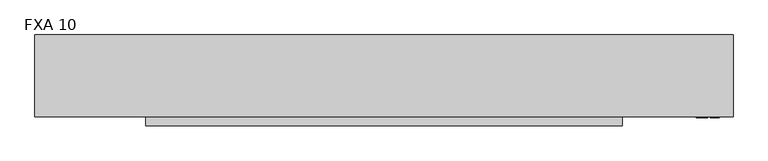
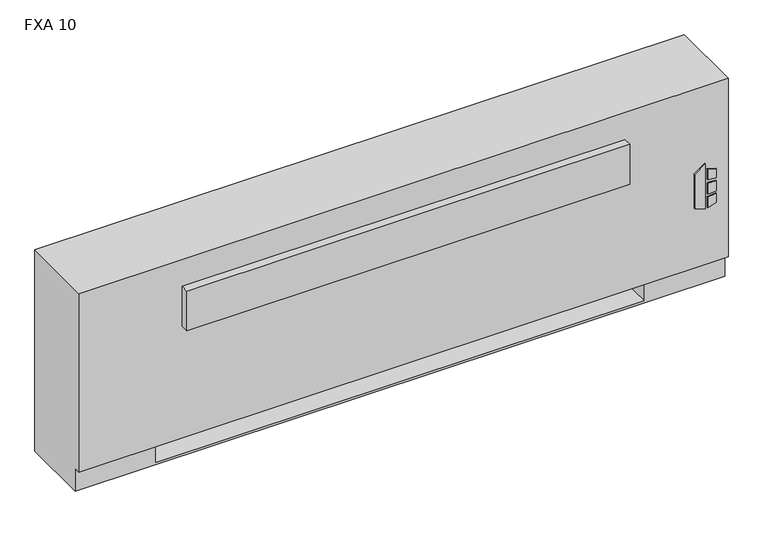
"""IFC4 building model written with IfcOpenShell, lengths in millimetres: proxy geometry, Vertical_Fan_Coil_Unit_-_FXA_-_IEC_-_2-Pipe_FS-FR_RH_2022 : FXA 10."""

from ifc_helpers import new_model, si_unit, point, frame, frame_2d, origin, place, context, project, spatial, polyline, circle_curve, trimmed, segment, composite_curve, outline, extrude, source, transform, mapped, element, save
from ifc_brep_helpers import plane_surface, revolved_surface, advanced_brep


def fxa_10_9ed3e903(model_context):
    return source(origin(), model_context, "Body", "SolidModel", [
        extrude(outline(polyline([(263.9480703, 1027.1868862), (254.0, 1059.3602728), (396.1709244, 1059.3602728), (373.1489183, 1027.1868862), (263.9480703, 1027.1868862)])), frame((0.0, 12.7, 0.0), z_axis=(0.0, 1.0, 0.0), x_axis=(0.0, 0.0, 1.0)), (0.0, 0.0, 1.0), 3.175),
        extrude(outline(polyline([(342.9473557, 1066.1186058), (339.7449632, 1092.2), (368.9738042, 1092.2), (377.0382193, 1066.1186058), (342.9473557, 1066.1186058)])), frame((0.0, 12.7, 0.0), z_axis=(0.0, 1.0, 0.0), x_axis=(0.0, 0.0, 1.0)), (0.0, 0.0, 1.0), 3.175),
        extrude(outline(polyline([(291.0838288, 1092.2), (287.4183279, 1066.1186058), (254.0, 1066.1186058), (262.6342372, 1092.2), (291.0838288, 1092.2)])), frame((0.0, 12.7, 0.0), z_axis=(0.0, 1.0, 0.0), x_axis=(0.0, 0.0, 1.0)), (0.0, 0.0, 1.0), 3.175),
        extrude(outline(polyline([(330.3989903, 1092.2), (332.6808166, 1066.1186058), (296.7432681, 1066.1186058), (299.4845331, 1092.2), (330.3989903, 1092.2)])), frame((0.0, 12.7, 0.0), z_axis=(0.0, 1.0, 0.0), x_axis=(0.0, 0.0, 1.0)), (0.0, 0.0, 1.0), 3.175),
        extrude(outline(polyline([(-704.85, 81.534), (-704.85, 223.266), (-584.2, 223.266), (-584.2, 81.534), (-704.85, 81.534)])), frame((0.0, 0.0, 327.025), z_axis=(0.0, 0.0, 1.0), x_axis=(1.0, 0.0, 0.0)), (0.0, 0.0, 1.0), 260.35),
        extrude(outline(composite_curve([segment(trimmed(circle_curve(frame_2d((952.5, 130.175)), 9.525), [point((942.975, 130.175))], [point((962.025, 130.175))], False, "CARTESIAN"), True, "CONTINUOUS"), segment(trimmed(circle_curve(frame_2d((952.5, 130.175)), 9.525), [point((962.025, 130.175))], [point((942.975, 130.175))], False, "CARTESIAN"), True, "CONTINUOUS")], self_intersect=False)), frame((0.0, 0.0, 101.6), z_axis=(0.0, 0.0, 1.0), x_axis=(1.0, 0.0, 0.0)), (0.0, 0.0, 1.0), 25.4),
        extrude(outline(polyline([(1054.1, 196.85), (1054.1, 63.5), (889.0, 63.5), (889.0, 196.85), (1054.1, 196.85)])), frame((0.0, 0.0, 127.0), z_axis=(0.0, 0.0, 1.0), x_axis=(1.0, 0.0, 0.0)), (0.0, 0.0, 1.0), 50.8),
        extrude(outline(polyline([(819.15, -9.525), (-514.35, -9.525), (-514.35, 15.875), (819.15, 15.875), (819.15, -9.525)])), frame((0.0, 0.0, 428.625), z_axis=(0.0, 0.0, 1.0), x_axis=(1.0, 0.0, 0.0)), (0.0, 0.0, 1.0), 127.0),
        extrude(outline(composite_curve([segment(trimmed(circle_curve(frame_2d((93.1926, 485.5972)), 7.9375), [point((93.1926, 493.5347))], [point((93.1926, 477.6597))], False, "CARTESIAN"), True, "CONTINUOUS"), segment(trimmed(circle_curve(frame_2d((93.1926, 485.5972)), 7.9375), [point((93.1926, 477.6597))], [point((93.1926, 493.5347))], False, "CARTESIAN"), True, "CONTINUOUS")], self_intersect=False)), frame((889.0, 0.0, 0.0), z_axis=(1.0, 0.0, 0.0), x_axis=(0.0, 1.0, 0.0)), (0.0, 0.0, 1.0), 50.8),
        extrude(outline(composite_curve([segment(trimmed(circle_curve(frame_2d((141.3002, 458.9526)), 7.9375), [point((141.3002, 466.8901))], [point((141.3002, 451.0151))], False, "CARTESIAN"), True, "CONTINUOUS"), segment(trimmed(circle_curve(frame_2d((141.3002, 458.9526)), 7.9375), [point((141.3002, 451.0151))], [point((141.3002, 466.8901))], False, "CARTESIAN"), True, "CONTINUOUS")], self_intersect=False)), frame((889.0, 0.0, 0.0), z_axis=(1.0, 0.0, 0.0), x_axis=(0.0, 1.0, 0.0)), (0.0, 0.0, 1.0), 50.8),
        advanced_brep(
        [(1130.3, 244.475, 641.35), (-825.5, 244.475, 641.35), (-825.5, 15.875, 641.35), (1130.3, 15.875, 641.35), (-825.5, 244.475, 0.0), (1130.3, 244.475, 0.0), (1130.3, 34.925, 0.0), (-825.5, 34.925, 0.0), (889.0, 244.475, 73.025), (1117.6, 244.475, 73.025), (1117.6, 244.475, 628.65), (889.0, 244.475, 628.65), (889.0, 244.475, 414.8650565), (917.575, 244.475, 414.8650565), (917.575, 244.475, 385.2349435), (889.0, 244.475, 385.2349435), (889.0, 244.475, 287.3375), (917.575, 244.475, 287.3375), (917.575, 244.475, 258.7625), (889.0, 244.475, 258.7625), (889.0, 244.475, 141.2875), (917.575, 244.475, 141.2875), (917.575, 244.475, 112.7125), (889.0, 244.475, 112.7125), (-584.2, 244.475, 628.65), (-812.8, 244.475, 628.65), (-812.8, 244.475, 73.025), (-584.2, 244.475, 73.025), (-584.2, 244.475, 112.7125), (-612.775, 244.475, 112.7125), (-612.775, 244.475, 141.2875), (-584.2, 244.475, 141.2875), (-584.2, 244.475, 258.7625), (-612.775, 244.475, 258.7625), (-612.775, 244.475, 287.3375), (-584.2, 244.475, 287.3375), (-584.2, 244.475, 385.2349435), (-612.775, 244.475, 385.2349435), (-612.775, 244.475, 414.8650565), (-584.2, 244.475, 414.8650565), (907.2626, 244.475, 127.0), (896.1374, 244.475, 127.0), (907.2626, 244.475, 400.05), (896.1374, 244.475, 400.05), (907.2626, 244.475, 273.05), (896.1374, 244.475, 273.05), (-591.3374, 244.475, 127.0), (-602.4626, 244.475, 127.0), (-591.3374, 244.475, 273.05), (-602.4626, 244.475, 273.05), (-591.3374, 244.475, 400.05), (-602.4626, 244.475, 400.05), (-825.5, 34.925, 73.025), (-825.5, 15.875, 73.025), (1130.3, 15.875, 73.025), (1130.3, 34.925, 73.025), (-584.2, 34.925, 73.025), (-584.2, 219.075, 73.025), (889.0, 219.075, 73.025), (889.0, 34.925, 73.025), (889.0, 34.925, 6.35), (-584.2, 34.925, 6.35), (889.0, 41.275, 628.65), (1117.6, 41.275, 628.65), (1117.6, 41.275, 73.025), (889.0, 41.275, 73.025), (-584.2, 41.275, 628.65), (-584.2, 41.275, 73.025), (-812.8, 41.275, 73.025), (-812.8, 41.275, 628.65), (889.0, 219.075, 73.025), (889.0, 238.125, 112.7125), (889.0, 238.125, 141.2875), (889.0, 238.125, 258.7625), (889.0, 238.125, 287.3375), (889.0, 238.125, 385.2349435), (889.0, 238.125, 414.8650565), (-584.2, 219.075, 73.025), (-584.2, 238.125, 414.8650565), (-584.2, 238.125, 385.2349435), (-584.2, 238.125, 287.3375), (-584.2, 238.125, 258.7625), (-584.2, 238.125, 141.2875), (-584.2, 238.125, 112.7125), (-584.2, 219.075, 6.35), (889.0, 219.075, 6.35), (917.575, 238.125, 112.7125), (917.575, 238.125, 141.2875), (896.1374, 238.125, 127.0), (907.2626, 238.125, 127.0), (917.575, 238.125, 258.7625), (917.575, 238.125, 287.3375), (896.1374, 238.125, 273.05), (907.2626, 238.125, 273.05), (917.575, 238.125, 385.2349435), (917.575, 238.125, 414.8650565), (896.1374, 238.125, 400.05), (907.2626, 238.125, 400.05), (-612.775, 238.125, 141.2875), (-612.775, 238.125, 112.7125), (-602.4626, 238.125, 127.0), (-591.3374, 238.125, 127.0), (-612.775, 238.125, 287.3375), (-612.775, 238.125, 258.7625), (-602.4626, 238.125, 273.05), (-591.3374, 238.125, 273.05), (-612.775, 238.125, 414.8650565), (-612.775, 238.125, 385.2349435), (-602.4626, 238.125, 400.05), (-591.3374, 238.125, 400.05)],
        [
            (0, 1),
            (1, 2),
            (2, 3),
            (3, 0),
            (4, 5),
            (5, 6),
            (6, 7),
            (7, 4),
            (0, 5),
            (4, 1),
            (8, 9),
            (9, 10),
            (10, 11),
            (11, 12),
            (12, 13),
            (13, 14),
            (14, 15),
            (15, 16),
            (16, 17),
            (17, 18),
            (18, 19),
            (19, 20),
            (20, 21),
            (21, 22),
            (22, 23),
            (23, 8),
            (24, 25),
            (25, 26),
            (26, 27),
            (27, 28),
            (28, 29),
            (29, 30),
            (30, 31),
            (31, 32),
            (32, 33),
            (33, 34),
            (34, 35),
            (35, 36),
            (36, 37),
            (37, 38),
            (38, 39),
            (39, 24),
            (40, 41, circle_curve(frame((901.7, 244.475, 127.0), z_axis=(0.0, -1.0, 0.0), x_axis=(-1.0, 0.0, 0.0)), 5.5626)),
            (41, 40, circle_curve(frame((901.7, 244.475, 127.0), z_axis=(0.0, -1.0, 0.0), x_axis=(-1.0, 0.0, 0.0)), 5.5626)),
            (42, 43, circle_curve(frame((901.7, 244.475, 400.05), z_axis=(0.0, -1.0, 0.0), x_axis=(-1.0, 0.0, 0.0)), 5.5626)),
            (43, 42, circle_curve(frame((901.7, 244.475, 400.05), z_axis=(0.0, -1.0, 0.0), x_axis=(-1.0, 0.0, 0.0)), 5.5626)),
            (44, 45, circle_curve(frame((901.7, 244.475, 273.05), z_axis=(0.0, -1.0, 0.0), x_axis=(-1.0, 0.0, 0.0)), 5.5626)),
            (45, 44, circle_curve(frame((901.7, 244.475, 273.05), z_axis=(0.0, -1.0, 0.0), x_axis=(-1.0, 0.0, 0.0)), 5.5626)),
            (46, 47, circle_curve(frame((-596.9, 244.475, 127.0), z_axis=(0.0, -1.0, 0.0), x_axis=(-1.0, 0.0, 0.0)), 5.5626)),
            (47, 46, circle_curve(frame((-596.9, 244.475, 127.0), z_axis=(0.0, -1.0, 0.0), x_axis=(-1.0, 0.0, 0.0)), 5.5626)),
            (48, 49, circle_curve(frame((-596.9, 244.475, 273.05), z_axis=(0.0, -1.0, 0.0), x_axis=(-1.0, 0.0, 0.0)), 5.5626)),
            (49, 48, circle_curve(frame((-596.9, 244.475, 273.05), z_axis=(0.0, -1.0, 0.0), x_axis=(-1.0, 0.0, 0.0)), 5.5626)),
            (50, 51, circle_curve(frame((-596.9, 244.475, 400.05), z_axis=(0.0, -1.0, 0.0), x_axis=(-1.0, 0.0, 0.0)), 5.5626)),
            (51, 50, circle_curve(frame((-596.9, 244.475, 400.05), z_axis=(0.0, -1.0, 0.0), x_axis=(-1.0, 0.0, 0.0)), 5.5626)),
            (7, 52),
            (52, 53),
            (53, 2),
            (53, 54),
            (54, 3),
            (54, 55),
            (55, 6),
            (52, 56),
            (56, 57),
            (57, 58),
            (58, 59),
            (59, 55),
            (59, 60),
            (60, 61),
            (61, 56),
            (62, 63),
            (63, 64),
            (64, 65),
            (65, 62),
            (66, 67),
            (67, 68),
            (68, 69),
            (69, 66),
            (65, 70),
            (70, 8),
            (23, 71),
            (71, 72),
            (72, 20),
            (19, 73),
            (73, 74),
            (74, 16),
            (15, 75),
            (75, 76),
            (76, 12),
            (11, 62),
            (64, 9),
            (63, 10),
            (69, 25),
            (24, 66),
            (68, 26),
            (67, 77),
            (77, 27),
            (39, 78),
            (78, 79),
            (79, 36),
            (35, 80),
            (80, 81),
            (81, 32),
            (31, 82),
            (82, 83),
            (83, 28),
            (57, 84),
            (84, 85),
            (85, 58),
            (85, 60),
            (84, 61),
            (71, 86),
            (86, 87),
            (87, 72),
            (88, 89, circle_curve(frame((901.7, 238.125, 127.0), z_axis=(0.0, 1.0, 0.0), x_axis=(-1.0, 0.0, 0.0)), 5.5626)),
            (89, 88, circle_curve(frame((901.7, 238.125, 127.0), z_axis=(0.0, 1.0, 0.0), x_axis=(-1.0, 0.0, 0.0)), 5.5626)),
            (73, 90),
            (90, 91),
            (91, 74),
            (92, 93, circle_curve(frame((901.7, 238.125, 273.05), z_axis=(0.0, 1.0, 0.0), x_axis=(-1.0, 0.0, 0.0)), 5.5626)),
            (93, 92, circle_curve(frame((901.7, 238.125, 273.05), z_axis=(0.0, 1.0, 0.0), x_axis=(-1.0, 0.0, 0.0)), 5.5626)),
            (75, 94),
            (94, 95),
            (95, 76),
            (96, 97, circle_curve(frame((901.7, 238.125, 400.05), z_axis=(0.0, 1.0, 0.0), x_axis=(-1.0, 0.0, 0.0)), 5.5626)),
            (97, 96, circle_curve(frame((901.7, 238.125, 400.05), z_axis=(0.0, 1.0, 0.0), x_axis=(-1.0, 0.0, 0.0)), 5.5626)),
            (98, 99),
            (99, 83),
            (82, 98),
            (100, 101, circle_curve(frame((-596.9, 238.125, 127.0), z_axis=(0.0, 1.0, 0.0), x_axis=(-1.0, 0.0, 0.0)), 5.5626)),
            (101, 100, circle_curve(frame((-596.9, 238.125, 127.0), z_axis=(0.0, 1.0, 0.0), x_axis=(-1.0, 0.0, 0.0)), 5.5626)),
            (102, 103),
            (103, 81),
            (80, 102),
            (104, 105, circle_curve(frame((-596.9, 238.125, 273.05), z_axis=(0.0, 1.0, 0.0), x_axis=(-1.0, 0.0, 0.0)), 5.5626)),
            (105, 104, circle_curve(frame((-596.9, 238.125, 273.05), z_axis=(0.0, 1.0, 0.0), x_axis=(-1.0, 0.0, 0.0)), 5.5626)),
            (106, 107),
            (107, 79),
            (78, 106),
            (108, 109, circle_curve(frame((-596.9, 238.125, 400.05), z_axis=(0.0, 1.0, 0.0), x_axis=(-1.0, 0.0, 0.0)), 5.5626)),
            (109, 108, circle_curve(frame((-596.9, 238.125, 400.05), z_axis=(0.0, 1.0, 0.0), x_axis=(-1.0, 0.0, 0.0)), 5.5626)),
            (87, 21),
            (86, 22),
            (91, 17),
            (90, 18),
            (95, 13),
            (94, 14),
            (30, 98),
            (99, 29),
            (34, 102),
            (103, 33),
            (38, 106),
            (107, 37),
            (88, 41),
            (40, 89),
            (96, 43),
            (42, 97),
            (92, 45),
            (44, 93),
            (100, 47),
            (46, 101),
            (104, 49),
            (48, 105),
            (108, 51),
            (50, 109),
        ],
        [
            plane_surface(frame((-825.5, 244.475, 641.35), z_axis=(0.0, 0.0, 1.0), x_axis=(-1.0, 0.0, 0.0))),
            plane_surface(frame((-825.5, 244.475, 0.0), z_axis=(0.0, 0.0, -1.0), x_axis=(1.0, 0.0, 0.0))),
            plane_surface(frame((1130.3, 244.475, 641.35), z_axis=(0.0, 1.0, 0.0), x_axis=(0.0, 0.0, -1.0))),
            plane_surface(frame((-825.5, 244.475, 641.35), z_axis=(-1.0, 0.0, 0.0), x_axis=(0.0, 0.0, -1.0))),
            plane_surface(frame((-825.5, 15.875, 641.35), z_axis=(0.0, -1.0, 0.0), x_axis=(0.0, 0.0, -1.0))),
            plane_surface(frame((1130.3, 15.875, 641.35), z_axis=(1.0, 0.0, 0.0), x_axis=(0.0, 0.0, -1.0))),
            plane_surface(frame((-825.5, 15.875, 73.025), z_axis=(0.0, 0.0, -1.0), x_axis=(1.0, 0.0, 0.0))),
            plane_surface(frame((-825.5, 34.925, 73.025), z_axis=(0.0, -1.0, 0.0), x_axis=(1.0, 0.0, 0.0))),
            plane_surface(frame((889.0, 41.275, 628.65), z_axis=(0.0, 1.0, 0.0), x_axis=(0.0, 0.0, -1.0))),
            plane_surface(frame((889.0, 41.275, 628.65), z_axis=(1.0, 0.0, 0.0), x_axis=(0.0, 1.0, 0.0))),
            plane_surface(frame((889.0, 41.275, 73.025), z_axis=(0.0, 0.0, 1.0), x_axis=(0.0, 1.0, 0.0))),
            plane_surface(frame((1117.6, 41.275, 73.025), z_axis=(-1.0, 0.0, 0.0), x_axis=(0.0, 1.0, 0.0))),
            plane_surface(frame((1117.6, 41.275, 628.65), z_axis=(0.0, 0.0, -1.0), x_axis=(0.0, 1.0, 0.0))),
            plane_surface(frame((-584.2, 41.275, 628.65), z_axis=(0.0, 0.0, -1.0), x_axis=(0.0, 1.0, 0.0))),
            plane_surface(frame((-812.8, 41.275, 628.65), z_axis=(1.0, 0.0, 0.0), x_axis=(0.0, 1.0, 0.0))),
            plane_surface(frame((-812.8, 41.275, 73.025), z_axis=(0.0, 0.0, 1.0), x_axis=(0.0, 1.0, 0.0))),
            plane_surface(frame((-584.2, 41.275, 73.025), z_axis=(-1.0, 0.0, 0.0), x_axis=(0.0, 1.0, 0.0))),
            plane_surface(frame((889.0, 219.075, 73.025), z_axis=(0.0, -1.0, 0.0), x_axis=(0.0, 0.0, -1.0))),
            plane_surface(frame((889.0, 219.075, 73.025), z_axis=(-1.0, 0.0, 0.0), x_axis=(0.0, -1.0, 0.0))),
            plane_surface(frame((889.0, 219.075, 6.35), z_axis=(0.0, 0.0, 1.0), x_axis=(0.0, -1.0, 0.0))),
            plane_surface(frame((-584.2, 219.075, 6.35), z_axis=(1.0, 0.0, 0.0), x_axis=(0.0, -1.0, 0.0))),
            plane_surface(frame((917.575, 238.125, 141.2875), z_axis=(0.0, -1.0, 0.0), x_axis=(-1.0, 0.0, 0.0))),
            plane_surface(frame((889.0, 244.475, 141.2875), z_axis=(0.0, 0.0, 1.0), x_axis=(0.0, -1.0, 0.0))),
            plane_surface(frame((917.575, 244.475, 141.2875), z_axis=(1.0, 0.0, 0.0), x_axis=(0.0, -1.0, 0.0))),
            plane_surface(frame((917.575, 244.475, 112.7125), z_axis=(0.0, 0.0, -1.0), x_axis=(0.0, -1.0, 0.0))),
            plane_surface(frame((889.0, 244.475, 287.3375), z_axis=(0.0, 0.0, 1.0), x_axis=(0.0, -1.0, 0.0))),
            plane_surface(frame((917.575, 244.475, 287.3375), z_axis=(1.0, 0.0, 0.0), x_axis=(0.0, -1.0, 0.0))),
            plane_surface(frame((917.575, 244.475, 258.7625), z_axis=(0.0, 0.0, -1.0), x_axis=(0.0, -1.0, 0.0))),
            plane_surface(frame((889.0, 244.475, 414.8650565), z_axis=(0.0, 0.0, 1.0), x_axis=(0.0, -1.0, 0.0))),
            plane_surface(frame((917.575, 244.475, 414.8650565), z_axis=(1.0, 0.0, 0.0), x_axis=(0.0, -1.0, 0.0))),
            plane_surface(frame((917.575, 244.475, 385.2349435), z_axis=(0.0, 0.0, -1.0), x_axis=(0.0, -1.0, 0.0))),
            plane_surface(frame((-612.775, 244.475, 141.2875), z_axis=(0.0, 0.0, 1.0), x_axis=(0.0, -1.0, 0.0))),
            plane_surface(frame((-584.2, 244.475, 112.7125), z_axis=(0.0, 0.0, -1.0), x_axis=(0.0, -1.0, 0.0))),
            plane_surface(frame((-612.775, 244.475, 112.7125), z_axis=(-1.0, 0.0, 0.0), x_axis=(0.0, -1.0, 0.0))),
            plane_surface(frame((-612.775, 244.475, 287.3375), z_axis=(0.0, 0.0, 1.0), x_axis=(0.0, -1.0, 0.0))),
            plane_surface(frame((-584.2, 244.475, 258.7625), z_axis=(0.0, 0.0, -1.0), x_axis=(0.0, -1.0, 0.0))),
            plane_surface(frame((-612.775, 244.475, 258.7625), z_axis=(-1.0, 0.0, 0.0), x_axis=(0.0, -1.0, 0.0))),
            plane_surface(frame((-612.775, 244.475, 414.8650565), z_axis=(0.0, 0.0, 1.0), x_axis=(0.0, -1.0, 0.0))),
            plane_surface(frame((-584.2, 244.475, 385.2349435), z_axis=(0.0, 0.0, -1.0), x_axis=(0.0, -1.0, 0.0))),
            plane_surface(frame((-612.775, 244.475, 385.2349435), z_axis=(-1.0, 0.0, 0.0), x_axis=(0.0, -1.0, 0.0))),
            revolved_surface(polyline([(896.1374000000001, 238.125, 127.0), (896.1374000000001, 244.475, 127.0)]), (901.7, 244.475, 127.0), (0.0, -1.0, 0.0)),
            revolved_surface(polyline([(896.1374000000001, 238.125, 400.05), (896.1374000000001, 244.475, 400.05)]), (901.7, 244.475, 400.05), (0.0, -1.0, 0.0)),
            revolved_surface(polyline([(896.1374000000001, 238.125, 273.05), (896.1374000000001, 244.475, 273.05)]), (901.7, 244.475, 273.05), (0.0, -1.0, 0.0)),
            revolved_surface(polyline([(-602.4626, 238.125, 127.0), (-602.4626, 244.475, 127.0)]), (-596.9, 244.475, 127.0), (0.0, -1.0, 0.0)),
            revolved_surface(polyline([(-602.4626, 238.125, 273.05), (-602.4626, 244.475, 273.05)]), (-596.9, 244.475, 273.05), (0.0, -1.0, 0.0)),
            revolved_surface(polyline([(-602.4626, 238.125, 400.05), (-602.4626, 244.475, 400.05)]), (-596.9, 244.475, 400.05), (0.0, -1.0, 0.0)),
        ],
        [
            (0, [[1, 2, 3, 4]]),
            (1, [[5, 6, 7, 8]]),
            (2, [[-1, 9, -5, 10], [11, 12, 13, 14, 15, 16, 17, 18, 19, 20, 21, 22, 23, 24, 25, 26], [27, 28, 29, 30, 31, 32, 33, 34, 35, 36, 37, 38, 39, 40, 41, 42], [43, 44], [45, 46], [47, 48], [49, 50], [51, 52], [53, 54]]),
            (3, [[-2, -10, -8, 55, 56, 57]]),
            (4, [[-3, -57, 58, 59]]),
            (5, [[-4, -59, 60, 61, -6, -9]]),
            (6, [[-56, 62, 63, 64, 65, 66, -60, -58]]),
            (7, [[-7, -61, -66, 67, 68, 69, -62, -55]]),
            (8, [[70, 71, 72, 73]]),
            (8, [[74, 75, 76, 77]]),
            (9, [[-73, 78, 79, -26, 80, 81, 82, -22, 83, 84, 85, -18, 86, 87, 88, -14, 89]]),
            (10, [[-72, 90, -11, -79, -78]]),
            (11, [[-71, 91, -12, -90]]),
            (12, [[-70, -89, -13, -91]]),
            (13, [[-77, 92, -27, 93]]),
            (14, [[-76, 94, -28, -92]]),
            (15, [[-75, 95, 96, -29, -94]]),
            (16, [[-74, -93, -42, 97, 98, 99, -38, 100, 101, 102, -34, 103, 104, 105, -30, -96, -95]]),
            (17, [[-64, 106, 107, 108]]),
            (18, [[-108, 109, -67, -65]]),
            (19, [[-107, 110, -68, -109]]),
            (20, [[-106, -63, -69, -110]]),
            (21, [[111, 112, 113, -81], [114, 115]]),
            (21, [[116, 117, 118, -84], [119, 120]]),
            (21, [[121, 122, 123, -87], [124, 125]]),
            (21, [[126, 127, -104, 128], [129, 130]]),
            (21, [[131, 132, -101, 133], [134, 135]]),
            (21, [[136, 137, -98, 138], [139, 140]]),
            (22, [[-113, 141, -23, -82]]),
            (23, [[-112, 142, -24, -141]]),
            (24, [[-111, -80, -25, -142]]),
            (25, [[-118, 143, -19, -85]]),
            (26, [[-117, 144, -20, -143]]),
            (27, [[-116, -83, -21, -144]]),
            (28, [[-123, 145, -15, -88]]),
            (29, [[-122, 146, -16, -145]]),
            (30, [[-121, -86, -17, -146]]),
            (31, [[-128, -103, -33, 147]]),
            (32, [[-127, 148, -31, -105]]),
            (33, [[-126, -147, -32, -148]]),
            (34, [[-133, -100, -37, 149]]),
            (35, [[-132, 150, -35, -102]]),
            (36, [[-131, -149, -36, -150]]),
            (37, [[-138, -97, -41, 151]]),
            (38, [[-137, 152, -39, -99]]),
            (39, [[-136, -151, -40, -152]]),
            (40, [[153, -43, 154, -114]]),
            (40, [[-153, -115, -154, -44]]),
            (41, [[155, -45, 156, -124]]),
            (41, [[-155, -125, -156, -46]]),
            (42, [[157, -47, 158, -119]]),
            (42, [[-157, -120, -158, -48]]),
            (43, [[159, -49, 160, -129]]),
            (43, [[-159, -130, -160, -50]]),
            (44, [[161, -51, 162, -134]]),
            (44, [[-161, -135, -162, -52]]),
            (45, [[163, -53, 164, -139]]),
            (45, [[-163, -140, -164, -54]]),
        ],
    ),
    ])


if __name__ == "__main__":
    model = new_model("IFC4")
    model_context = context("Model", 3, world=origin())
    ifc_project = project(units=[si_unit("LENGTHUNIT", "METRE", prefix="MILLI")], contexts=[model_context])
    site = spatial("IfcSite", under=ifc_project)
    building = spatial("IfcBuilding", under=site)
    placement = place(None, origin())
    fxa_10_shape = fxa_10_9ed3e903(model_context)
    element("IfcBuildingElementProxy", 1, Name="Vertical_Fan_Coil_Unit_-_FXA_-_IEC_-_2-Pipe_FS-FR_RH_2022 : FXA 10", ObjectType="Vertical_Fan_Coil_Unit_-_FXA_-_IEC_-_2-Pipe_FS-FR_RH_2022 : FXA 10", at=placement, inside=building, context=model_context, shape_type="MappedRepresentation", body=[
        mapped(fxa_10_shape, transform((0.0, 0.0, 0.0), x_axis=(1.0, 0.0, 0.0), y_axis=(0.0, 1.0, 0.0), z_axis=(0.0, 0.0, 1.0))),
    ])
    save(model, "model.ifc")
